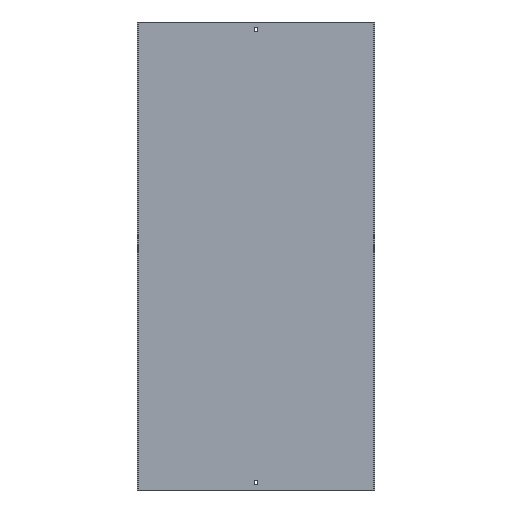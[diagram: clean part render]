
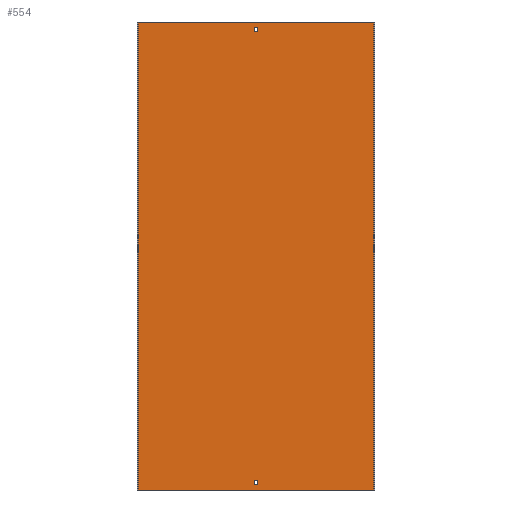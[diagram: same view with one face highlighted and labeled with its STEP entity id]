
A CAD part, front view. The second image highlights one B-rep face of the part: STEP entity #554.
In plain terms, the highlighted planar face has unit normal (0, -1, 0).
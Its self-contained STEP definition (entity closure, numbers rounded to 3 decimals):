
#4 = LINE ( 'NONE', #149, #412 ) ;
#28 = ORIENTED_EDGE ( 'NONE', *, *, #72, .T. ) ;
#44 = VERTEX_POINT ( 'NONE', #74 ) ;
#45 = VECTOR ( 'NONE', #94, 1000. ) ;
#47 = CARTESIAN_POINT ( 'NONE',  ( -253.5, -1.5, 500. ) ) ;
#49 = AXIS2_PLACEMENT_3D ( 'NONE', #47, #225, #145 ) ;
#50 = VERTEX_POINT ( 'NONE', #527 ) ;
#52 = CARTESIAN_POINT ( 'NONE',  ( 3.25, -1.5, 500. ) ) ;
#55 = CARTESIAN_POINT ( 'NONE',  ( -253.5, -1.5, 488. ) ) ;
#57 = ORIENTED_EDGE ( 'NONE', *, *, #262, .T. ) ;
#60 = DIRECTION ( 'NONE',  ( 0., 0., 1. ) ) ;
#72 = EDGE_CURVE ( 'NONE', #536, #460, #296, .T. ) ;
#74 = CARTESIAN_POINT ( 'NONE',  ( -3.25, -1.5, -488. ) ) ;
#94 = DIRECTION ( 'NONE',  ( -1., 0., 0. ) ) ;
#96 = CARTESIAN_POINT ( 'NONE',  ( -252., -1.5, 500. ) ) ;
#100 = DIRECTION ( 'NONE',  ( 0., 0., 1. ) ) ;
#104 = DIRECTION ( 'NONE',  ( 0., 0., -1. ) ) ;
#115 = CARTESIAN_POINT ( 'NONE',  ( 3.25, -1.5, -479. ) ) ;
#118 = ORIENTED_EDGE ( 'NONE', *, *, #137, .F. ) ;
#119 = VECTOR ( 'NONE', #142, 1000. ) ;
#128 = VERTEX_POINT ( 'NONE', #497 ) ;
#130 = EDGE_CURVE ( 'NONE', #189, #44, #466, .T. ) ;
#132 = VERTEX_POINT ( 'NONE', #558 ) ;
#137 = EDGE_CURVE ( 'NONE', #132, #538, #188, .T. ) ;
#138 = LINE ( 'NONE', #55, #119 ) ;
#139 = CARTESIAN_POINT ( 'NONE',  ( -253.5, -1.5, -488. ) ) ;
#142 = DIRECTION ( 'NONE',  ( -1., 0., 0. ) ) ;
#145 = DIRECTION ( 'NONE',  ( 0., 0., -1. ) ) ;
#148 = CARTESIAN_POINT ( 'NONE',  ( -3.25, -1.5, 500. ) ) ;
#149 = CARTESIAN_POINT ( 'NONE',  ( 252., -1.5, 500. ) ) ;
#153 = EDGE_CURVE ( 'NONE', #538, #50, #456, .T. ) ;
#154 = ORIENTED_EDGE ( 'NONE', *, *, #391, .T. ) ;
#163 = CARTESIAN_POINT ( 'NONE',  ( -3.25, -1.5, 500. ) ) ;
#188 = LINE ( 'NONE', #193, #398 ) ;
#189 = VERTEX_POINT ( 'NONE', #584 ) ;
#193 = CARTESIAN_POINT ( 'NONE',  ( -253.5, -1.5, 479. ) ) ;
#203 = EDGE_CURVE ( 'NONE', #214, #416, #4, .T. ) ;
#204 = LINE ( 'NONE', #206, #372 ) ;
#206 = CARTESIAN_POINT ( 'NONE',  ( -253.5, -1.5, 500. ) ) ;
#212 = CARTESIAN_POINT ( 'NONE',  ( 252., -1.5, -500. ) ) ;
#214 = VERTEX_POINT ( 'NONE', #233 ) ;
#224 = VERTEX_POINT ( 'NONE', #115 ) ;
#225 = DIRECTION ( 'NONE',  ( 0., -1., 0. ) ) ;
#226 = DIRECTION ( 'NONE',  ( 1., 0., 0. ) ) ;
#229 = FACE_OUTER_BOUND ( 'NONE', #493, .T. ) ;
#232 = PLANE ( 'NONE',  #49 ) ;
#233 = CARTESIAN_POINT ( 'NONE',  ( 252., -1.5, 500. ) ) ;
#243 = DIRECTION ( 'NONE',  ( 0., 0., -1. ) ) ;
#262 = EDGE_CURVE ( 'NONE', #214, #536, #204, .T. ) ;
#263 = VECTOR ( 'NONE', #506, 1000. ) ;
#268 = CARTESIAN_POINT ( 'NONE',  ( 3.25, -1.5, 479. ) ) ;
#270 = EDGE_CURVE ( 'NONE', #416, #460, #291, .T. ) ;
#273 = EDGE_CURVE ( 'NONE', #44, #501, #428, .T. ) ;
#275 = FACE_BOUND ( 'NONE', #420, .T. ) ;
#290 = ORIENTED_EDGE ( 'NONE', *, *, #574, .F. ) ;
#291 = LINE ( 'NONE', #330, #453 ) ;
#296 = LINE ( 'NONE', #426, #432 ) ;
#302 = DIRECTION ( 'NONE',  ( 1., 0., 0. ) ) ;
#304 = ORIENTED_EDGE ( 'NONE', *, *, #529, .T. ) ;
#306 = ORIENTED_EDGE ( 'NONE', *, *, #203, .F. ) ;
#311 = LINE ( 'NONE', #315, #371 ) ;
#315 = CARTESIAN_POINT ( 'NONE',  ( 3.25, -1.5, 500. ) ) ;
#324 = CARTESIAN_POINT ( 'NONE',  ( -3.25, -1.5, -479. ) ) ;
#330 = CARTESIAN_POINT ( 'NONE',  ( -253.5, -1.5, -500. ) ) ;
#337 = DIRECTION ( 'NONE',  ( -1., 0., 0. ) ) ;
#345 = CARTESIAN_POINT ( 'NONE',  ( -253.5, -1.5, -479. ) ) ;
#346 = ORIENTED_EDGE ( 'NONE', *, *, #270, .F. ) ;
#353 = LINE ( 'NONE', #345, #445 ) ;
#368 = LINE ( 'NONE', #148, #263 ) ;
#371 = VECTOR ( 'NONE', #499, 1000. ) ;
#372 = VECTOR ( 'NONE', #480, 1000. ) ;
#376 = ORIENTED_EDGE ( 'NONE', *, *, #273, .T. ) ;
#391 = EDGE_CURVE ( 'NONE', #501, #224, #353, .T. ) ;
#398 = VECTOR ( 'NONE', #226, 1000. ) ;
#412 = VECTOR ( 'NONE', #104, 1000. ) ;
#416 = VERTEX_POINT ( 'NONE', #212 ) ;
#420 = EDGE_LOOP ( 'NONE', ( #470, #376, #154, #304 ) ) ;
#426 = CARTESIAN_POINT ( 'NONE',  ( -252., -1.5, 500. ) ) ;
#428 = LINE ( 'NONE', #163, #530 ) ;
#432 = VECTOR ( 'NONE', #243, 1000. ) ;
#445 = VECTOR ( 'NONE', #302, 1000. ) ;
#453 = VECTOR ( 'NONE', #337, 1000. ) ;
#456 = LINE ( 'NONE', #52, #475 ) ;
#460 = VERTEX_POINT ( 'NONE', #487 ) ;
#466 = LINE ( 'NONE', #139, #45 ) ;
#470 = ORIENTED_EDGE ( 'NONE', *, *, #130, .T. ) ;
#475 = VECTOR ( 'NONE', #100, 1000. ) ;
#479 = ORIENTED_EDGE ( 'NONE', *, *, #513, .F. ) ;
#480 = DIRECTION ( 'NONE',  ( -1., 0., 0. ) ) ;
#487 = CARTESIAN_POINT ( 'NONE',  ( -252., -1.5, -500. ) ) ;
#493 = EDGE_LOOP ( 'NONE', ( #346, #306, #57, #28 ) ) ;
#497 = CARTESIAN_POINT ( 'NONE',  ( -3.25, -1.5, 488. ) ) ;
#499 = DIRECTION ( 'NONE',  ( 0., 0., -1. ) ) ;
#501 = VERTEX_POINT ( 'NONE', #324 ) ;
#506 = DIRECTION ( 'NONE',  ( 0., 0., -1. ) ) ;
#513 = EDGE_CURVE ( 'NONE', #50, #128, #138, .T. ) ;
#527 = CARTESIAN_POINT ( 'NONE',  ( 3.25, -1.5, 488. ) ) ;
#529 = EDGE_CURVE ( 'NONE', #224, #189, #311, .T. ) ;
#530 = VECTOR ( 'NONE', #60, 1000. ) ;
#536 = VERTEX_POINT ( 'NONE', #96 ) ;
#538 = VERTEX_POINT ( 'NONE', #268 ) ;
#550 = FACE_BOUND ( 'NONE', #576, .T. ) ;
#554 = ADVANCED_FACE ( 'NONE', ( #550, #229, #275 ), #232, .T. ) ;
#557 = ORIENTED_EDGE ( 'NONE', *, *, #153, .F. ) ;
#558 = CARTESIAN_POINT ( 'NONE',  ( -3.25, -1.5, 479. ) ) ;
#574 = EDGE_CURVE ( 'NONE', #128, #132, #368, .T. ) ;
#576 = EDGE_LOOP ( 'NONE', ( #290, #479, #557, #118 ) ) ;
#584 = CARTESIAN_POINT ( 'NONE',  ( 3.25, -1.5, -488. ) ) ;
